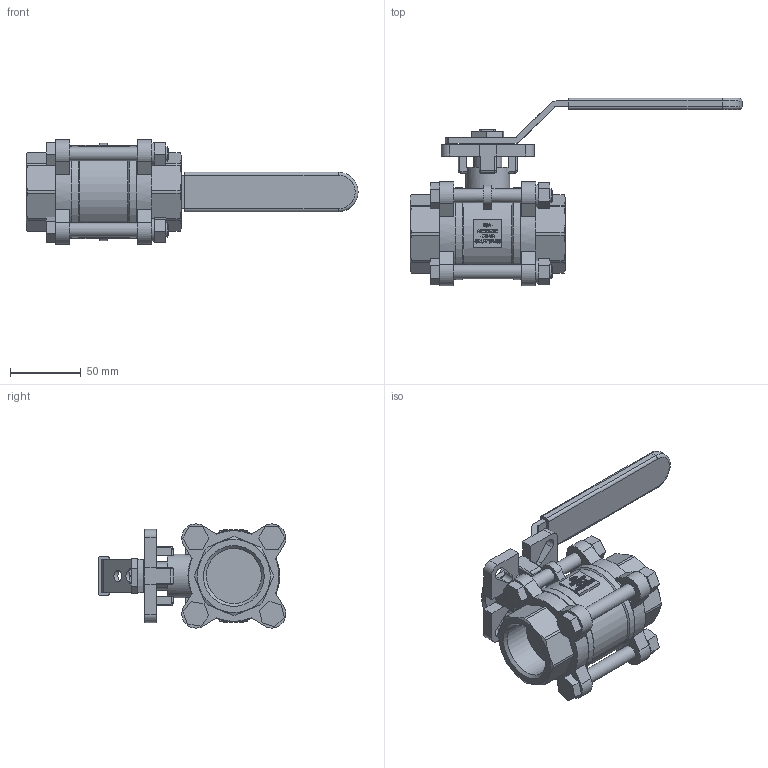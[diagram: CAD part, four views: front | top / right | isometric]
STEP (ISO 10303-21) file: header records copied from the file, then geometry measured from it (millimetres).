
FILE_DESCRIPTION((''),'2;1');
FILE_NAME('K:\Inventor\1 Artikel\11) Muffen-Kugelhähne\11a) manuell\Econosto\470-VA, 7444ISO\470-VA, G1,25\470-VA, G1,25, 3D\470-VA, G1,25, PN68, HH, 3D.stp','2019-10-24T09:38:38',('claudia'),(''),'Autodesk Inventor 2013','Autodesk Inventor 2013','');
FILE_SCHEMA(('AUTOMOTIVE_DESIGN { 1 0 10303 214 1 1 1 1 }'));
Length unit declared in the file: millimetre
Products named in the file (1): Bauteil6
Bounding box: 235 x 132.96 x 73.71 mm (x, y, z)
Volume: 394048.3 mm3; surface area: 77507.9 mm2
Topology: 1 solids, 1 shells, 1450 faces, 3911 edges, 2589 vertices
Faces by surface type: plane 915, bspline 441, cylinder 82, cone 10, torus 2
Full cylindrical faces by diameter (mm): 8 x2, 10 x10, 16 x4, 20 x1, 31 x1, 32 x1, 38.952 x2, 63 x1, 64 x2, 65 x2
Entity records: 48554 total; most frequent: CARTESIAN_POINT 15220, ORIENTED_EDGE 7716, DIRECTION 5185, EDGE_CURVE 3858, VECTOR 2719, LINE 2719, VERTEX_POINT 2573, EDGE_LOOP 1645
